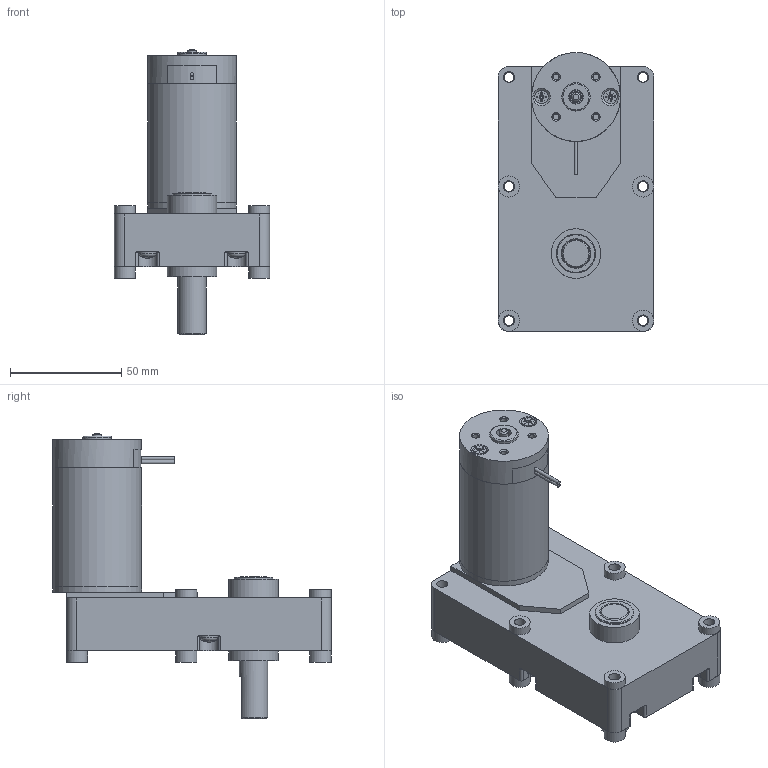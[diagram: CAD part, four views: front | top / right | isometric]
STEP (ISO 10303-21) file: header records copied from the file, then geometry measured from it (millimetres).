
FILE_DESCRIPTION((''),'2;1');
FILE_NAME('D:\업무 관련\2. DC\홈페이지 링크용 도면\3D\SG\SG45BL.stp','2015-04-04T09:18:56',('leejy'),(''),'Autodesk Inventor 2013','Autodesk Inventor 2013','');
FILE_SCHEMA(('AUTOMOTIVE_DESIGN { 1 0 10303 214 1 1 1 1 }'));
Length unit declared in the file: millimetre
Products named in the file (10): SG45BL; SG2 SERIES BOX; RM45ㅁBL; RM4TYPE_FRONT_HOUSING_; RM4TYPE_PIPE_HOUSING_pi40XL53.5; RM45TYPE_SHAFT; AS 1427 Z - 미터 M3.5 x 5; REAR_HOUSING__ASS'Y_LEAD; RM4TYPE_BRUSH_BRAKET_LEAD; RM4TYPE_REAR_HOUSING
Assembly tree (9 placements, depth 3):
  SG45BL
    SG2 SERIES BOX
    RM45ㅁBL
      RM4TYPE_FRONT_HOUSING_
      RM4TYPE_PIPE_HOUSING_pi40XL53.5
      RM45TYPE_SHAFT
      AS 1427 Z - 미터 M3.5 x 5  x2
  REAR_HOUSING__ASS'Y_LEAD
    RM4TYPE_BRUSH_BRAKET_LEAD
    RM4TYPE_REAR_HOUSING
Bounding box: 69.85 x 125.41 x 128.38 mm (x, y, z)
Volume: 124016.7 mm3; surface area: 77826.3 mm2
Topology: 10 solids, 10 shells, 529 faces, 1374 edges, 885 vertices
Faces by surface type: plane 207, cylinder 129, cone 127, torus 60, sphere 6
Full cylindrical faces by diameter (mm): 1.6 x2, 2.7 x4, 2.8 x4, 3.132 x2, 3.5 x2, 3.571 x6, 3.7 x2, 3.969 x1, 4 x7, 4.3 x6, 4.4 x6, 4.45 x1, 5 x1, 5.05 x6, 6 x1, 6.1 x2, 6.5 x1, 6.65 x1, 9.4 x1, 9.5 x9, 12.7 x5, 17.5 x4, 20.3 x1, 22.3 x2, 36.5 x1, 40 x3
Entity records: 15198 total; most frequent: CARTESIAN_POINT 3822, DIRECTION 2303, ORIENTED_EDGE 2126, EDGE_CURVE 1063, AXIS2_PLACEMENT_3D 986, VERTEX_POINT 755, EDGE_LOOP 702, FACE_OUTER_BOUND 488
